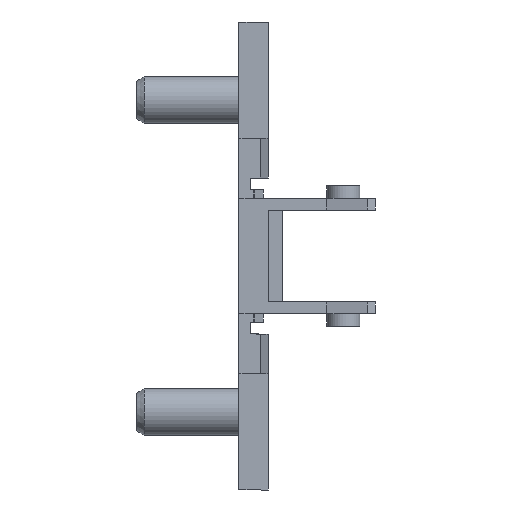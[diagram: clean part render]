
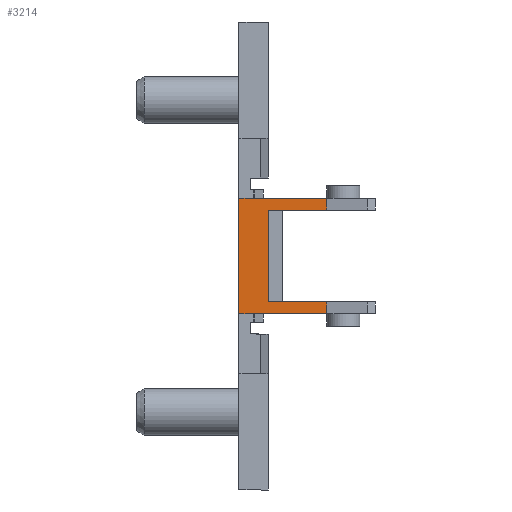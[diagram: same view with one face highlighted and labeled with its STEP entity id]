
A CAD part, front view. The second image highlights one B-rep face of the part: STEP entity #3214.
In plain terms, the highlighted planar face has unit normal (0, -1, 0).
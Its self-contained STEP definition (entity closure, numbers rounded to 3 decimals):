
#475 = ORIENTED_EDGE ( 'NONE', *, *, #2847, .F. ) ;
#476 = ORIENTED_EDGE ( 'NONE', *, *, #2949, .F. ) ;
#477 = ORIENTED_EDGE ( 'NONE', *, *, #2898, .T. ) ;
#478 = ORIENTED_EDGE ( 'NONE', *, *, #2940, .T. ) ;
#479 = ORIENTED_EDGE ( 'NONE', *, *, #3008, .T. ) ;
#480 = ORIENTED_EDGE ( 'NONE', *, *, #2884, .F. ) ;
#481 = ORIENTED_EDGE ( 'NONE', *, *, #2887, .T. ) ;
#482 = ORIENTED_EDGE ( 'NONE', *, *, #2774, .F. ) ;
#893 = LINE ( 'NONE', #3474, #898 ) ;
#898 = VECTOR ( 'NONE', #3482, 1000. ) ;
#1017 = VECTOR ( 'NONE', #3339, 1000. ) ;
#1021 = LINE ( 'NONE', #3288, #1017 ) ;
#1083 = LINE ( 'NONE', #3671, #1084 ) ;
#1084 = VECTOR ( 'NONE', #3672, 1000. ) ;
#1087 = LINE ( 'NONE', #3679, #1088 ) ;
#1088 = VECTOR ( 'NONE', #3680, 1000. ) ;
#1100 = LINE ( 'NONE', #3701, #1107 ) ;
#1107 = VECTOR ( 'NONE', #3704, 1000. ) ;
#1148 = LINE ( 'NONE', #3804, #1176 ) ;
#1175 = LINE ( 'NONE', #3825, #1187 ) ;
#1176 = VECTOR ( 'NONE', #3807, 1000. ) ;
#1187 = VECTOR ( 'NONE', #3826, 1000. ) ;
#1286 = LINE ( 'NONE', #3956, #1287 ) ;
#1287 = VECTOR ( 'NONE', #3957, 1000. ) ;
#1544 = VERTEX_POINT ( 'NONE', #1804 ) ;
#1545 = VERTEX_POINT ( 'NONE', #1805 ) ;
#1546 = VERTEX_POINT ( 'NONE', #1806 ) ;
#1547 = VERTEX_POINT ( 'NONE', #1807 ) ;
#1573 = VERTEX_POINT ( 'NONE', #1833 ) ;
#1576 = VERTEX_POINT ( 'NONE', #1836 ) ;
#1577 = VERTEX_POINT ( 'NONE', #1837 ) ;
#1578 = VERTEX_POINT ( 'NONE', #1838 ) ;
#1804 = CARTESIAN_POINT ( 'NONE',  ( 9.023, -25.55, -4.7 ) ) ;
#1805 = CARTESIAN_POINT ( 'NONE',  ( 9.023, -25.55, -5.9 ) ) ;
#1806 = CARTESIAN_POINT ( 'NONE',  ( 0., -25.55, 5.9 ) ) ;
#1807 = CARTESIAN_POINT ( 'NONE',  ( 0., -25.55, -5.9 ) ) ;
#1833 = CARTESIAN_POINT ( 'NONE',  ( 3., -25.55, 4.7 ) ) ;
#1836 = CARTESIAN_POINT ( 'NONE',  ( 9.023, -25.55, 5.9 ) ) ;
#1837 = CARTESIAN_POINT ( 'NONE',  ( 9.023, -25.55, 4.7 ) ) ;
#1838 = CARTESIAN_POINT ( 'NONE',  ( 3., -25.55, -4.7 ) ) ;
#2235 = FACE_OUTER_BOUND ( 'NONE', #2455, .T. ) ;
#2455 = EDGE_LOOP ( 'NONE', ( #482, #481, #480, #479, #478, #477, #476, #475 ) ) ;
#2573 = AXIS2_PLACEMENT_3D ( 'NONE', #4451, #4454, #4455 ) ;
#2774 = EDGE_CURVE ( 'NONE', #1573, #1578, #893, .T. ) ;
#2847 = EDGE_CURVE ( 'NONE', #1578, #1544, #1021, .T. ) ;
#2884 = EDGE_CURVE ( 'NONE', #1576, #1577, #1083, .T. ) ;
#2887 = EDGE_CURVE ( 'NONE', #1573, #1577, #1087, .T. ) ;
#2898 = EDGE_CURVE ( 'NONE', #1547, #1545, #1100, .T. ) ;
#2940 = EDGE_CURVE ( 'NONE', #1546, #1547, #1148, .T. ) ;
#2949 = EDGE_CURVE ( 'NONE', #1544, #1545, #1175, .T. ) ;
#3008 = EDGE_CURVE ( 'NONE', #1576, #1546, #1286, .T. ) ;
#3214 = ADVANCED_FACE ( 'NONE', ( #2235 ), #4452, .T. ) ;
#3288 = CARTESIAN_POINT ( 'NONE',  ( 14., -25.55, -4.7 ) ) ;
#3339 = DIRECTION ( 'NONE',  ( 1., 0., 0. ) ) ;
#3474 = CARTESIAN_POINT ( 'NONE',  ( 3., -25.55, -5.9 ) ) ;
#3482 = DIRECTION ( 'NONE',  ( 0., 0., -1. ) ) ;
#3671 = CARTESIAN_POINT ( 'NONE',  ( 9.023, -25.55, 67.733 ) ) ;
#3672 = DIRECTION ( 'NONE',  ( 0., 0., -1. ) ) ;
#3679 = CARTESIAN_POINT ( 'NONE',  ( 14., -25.55, 4.7 ) ) ;
#3680 = DIRECTION ( 'NONE',  ( 1., 0., 0. ) ) ;
#3701 = CARTESIAN_POINT ( 'NONE',  ( 1.5, -25.55, -5.9 ) ) ;
#3704 = DIRECTION ( 'NONE',  ( 1., 0., 0. ) ) ;
#3804 = CARTESIAN_POINT ( 'NONE',  ( 0., -25.55, 15.37 ) ) ;
#3807 = DIRECTION ( 'NONE',  ( 0., 0., -1. ) ) ;
#3825 = CARTESIAN_POINT ( 'NONE',  ( 9.023, -25.55, 67.733 ) ) ;
#3826 = DIRECTION ( 'NONE',  ( 0., 0., -1. ) ) ;
#3956 = CARTESIAN_POINT ( 'NONE',  ( 14., -25.55, 5.9 ) ) ;
#3957 = DIRECTION ( 'NONE',  ( -1., 0., 0. ) ) ;
#4451 = CARTESIAN_POINT ( 'NONE',  ( 14., -25.55, -5.9 ) ) ;
#4452 = PLANE ( 'NONE',  #2573 ) ;
#4454 = DIRECTION ( 'NONE',  ( 0., -1., 0. ) ) ;
#4455 = DIRECTION ( 'NONE',  ( -1., 0., 0. ) ) ;
